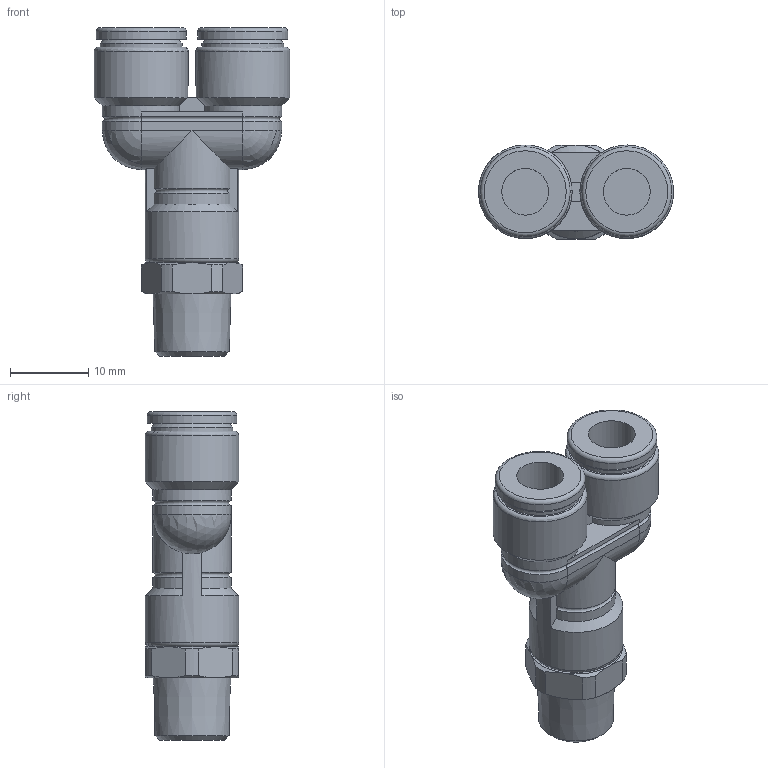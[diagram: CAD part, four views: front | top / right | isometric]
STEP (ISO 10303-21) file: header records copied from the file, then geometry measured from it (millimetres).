
FILE_DESCRIPTION(/* description */ (''),/* implementation_level */ '2;1');
FILE_NAME(/* name */ 'E:\2013年度版　3D-DATA\【02】 TOUCH CONNECTOR FIVE SUS\[04] MALE BRANCH Y\[05] FS6-01MY FS6-01MYW.stp',/* time_stamp */ '2013-08-06T16:57:35+09:00',/* author */ ('takahashi-pc2'),/* organization */ (''),/* preprocessor_version */ 'ST-DEVELOPER v15.2',/* originating_system */ 'Autodesk Inventor 2014',/* authorisation */ '');
FILE_SCHEMA (('AUTOMOTIVE_DESIGN { 1 0 10303 214 3 1 1 }'));
Length unit declared in the file: millimetre
Products named in the file (1): [05] FS6-01MY FS6-01MYW
Bounding box: 25 x 12 x 42.1 mm (x, y, z)
Volume: 5157.7 mm3; surface area: 3101.7 mm2
Topology: 1 solids, 1 shells, 88 faces, 200 edges, 118 vertices
Faces by surface type: plane 30, cylinder 27, cone 20, torus 9, sphere 2
Full cylindrical faces by diameter (mm): 6 x2, 10.5 x2, 11.5 x2, 12 x3
Entity records: 2363 total; most frequent: CARTESIAN_POINT 527, DIRECTION 398, ORIENTED_EDGE 350, EDGE_CURVE 175, AXIS2_PLACEMENT_3D 172, VERTEX_POINT 115, EDGE_LOOP 114, ADVANCED_FACE 88
